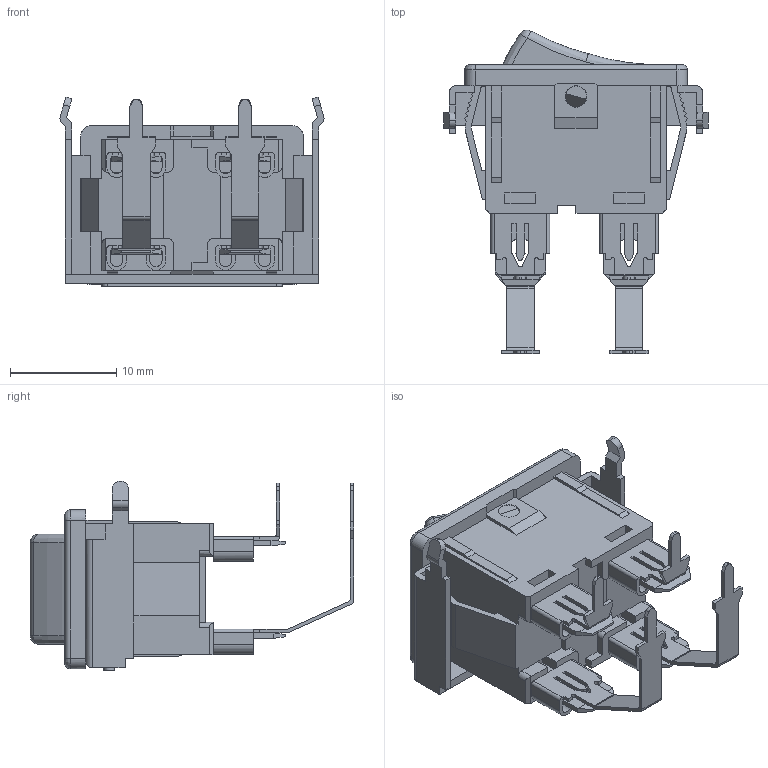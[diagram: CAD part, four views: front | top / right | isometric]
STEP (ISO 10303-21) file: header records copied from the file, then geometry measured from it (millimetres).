
FILE_DESCRIPTION (( 'STEP AP214' ), '1' );
FILE_NAME ('SDDJE32100.STEP', '2011-03-28T08:29:41', ( '' ), ( '' ), 'SwSTEP 2.0', 'SolidWorks 2007', '' );
FILE_SCHEMA (( 'AUTOMOTIVE_DESIGN' ));
Length unit declared in the file: millimetre
Products named in the file (1): SDDJE32100
Bounding box: 24.9 x 30.55 x 17.9 mm (x, y, z)
Volume: 3455.6 mm3; surface area: 3606.4 mm2
Topology: 2 solids, 2 shells, 668 faces, 1910 edges, 1236 vertices
Faces by surface type: plane 507, cylinder 145, bspline 16
Entity records: 27158 total; most frequent: CARTESIAN_POINT 5363, ORIENTED_EDGE 3812, DIRECTION 3492, EDGE_CURVE 1906, VECTOR 1534, LINE 1534, VERTEX_POINT 1236, AXIS2_PLACEMENT_3D 979
